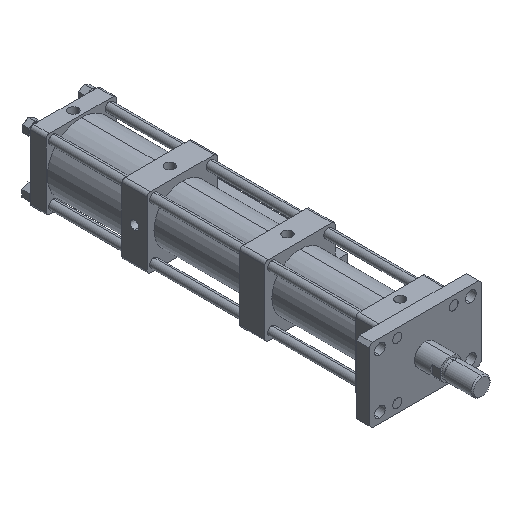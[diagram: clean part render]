
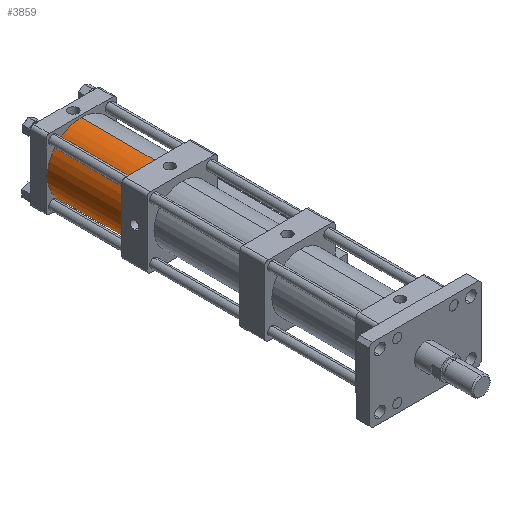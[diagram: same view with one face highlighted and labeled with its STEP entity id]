
A CAD part, isometric view. The second image highlights one B-rep face of the part: STEP entity #3859.
In plain terms, the highlighted cylindrical face has radius 54 mm (diameter 108 mm), a partial arc.
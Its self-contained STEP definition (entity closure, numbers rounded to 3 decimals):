
#172 = DIRECTION ( 'NONE',  ( 0., 1., 0. ) ) ;
#175 = ORIENTED_EDGE ( 'NONE', *, *, #1699, .F. ) ;
#574 = VERTEX_POINT ( 'NONE', #731 ) ;
#731 = CARTESIAN_POINT ( 'NONE',  ( 0., 549.002, 52.362 ) ) ;
#916 = ORIENTED_EDGE ( 'NONE', *, *, #6060, .T. ) ;
#946 = AXIS2_PLACEMENT_3D ( 'NONE', #7564, #3894, #3275 ) ;
#989 = CARTESIAN_POINT ( 'NONE',  ( 0., 428.002, 52.362 ) ) ;
#1024 = AXIS2_PLACEMENT_3D ( 'NONE', #3403, #7699, #4025 ) ;
#1521 = VECTOR ( 'NONE', #1716, 1000. ) ;
#1699 = EDGE_CURVE ( 'NONE', #5766, #574, #3973, .T. ) ;
#1716 = DIRECTION ( 'NONE',  ( 0., -1., 0. ) ) ;
#2551 = EDGE_LOOP ( 'NONE', ( #4134, #175, #916, #3317 ) ) ;
#3111 = VECTOR ( 'NONE', #5247, 1000. ) ;
#3241 = EDGE_CURVE ( 'NONE', #6761, #5503, #6177, .T. ) ;
#3275 = DIRECTION ( 'NONE',  ( 0., 0., -1. ) ) ;
#3277 = EDGE_CURVE ( 'NONE', #574, #5503, #5977, .T. ) ;
#3317 = ORIENTED_EDGE ( 'NONE', *, *, #3241, .T. ) ;
#3369 = CYLINDRICAL_SURFACE ( 'NONE', #946, 54. ) ;
#3403 = CARTESIAN_POINT ( 'NONE',  ( 0., 428.002, -1.638 ) ) ;
#3854 = CARTESIAN_POINT ( 'NONE',  ( 0., 549.002, -1.638 ) ) ;
#3859 = ADVANCED_FACE ( 'NONE', ( #5393 ), #3369, .T. ) ;
#3894 = DIRECTION ( 'NONE',  ( 0., -1., 0. ) ) ;
#3973 = CIRCLE ( 'NONE', #6688, 54. ) ;
#4025 = DIRECTION ( 'NONE',  ( 0., 0., 1. ) ) ;
#4134 = ORIENTED_EDGE ( 'NONE', *, *, #3277, .F. ) ;
#4386 = CARTESIAN_POINT ( 'NONE',  ( 0., 549.002, -55.638 ) ) ;
#4484 = DIRECTION ( 'NONE',  ( 0., 0., 1. ) ) ;
#4966 = LINE ( 'NONE', #7807, #1521 ) ;
#5247 = DIRECTION ( 'NONE',  ( 0., -1., 0. ) ) ;
#5393 = FACE_OUTER_BOUND ( 'NONE', #2551, .T. ) ;
#5503 = VERTEX_POINT ( 'NONE', #989 ) ;
#5766 = VERTEX_POINT ( 'NONE', #4386 ) ;
#5858 = CARTESIAN_POINT ( 'NONE',  ( 0., 549.002, 52.362 ) ) ;
#5977 = LINE ( 'NONE', #5858, #3111 ) ;
#6060 = EDGE_CURVE ( 'NONE', #5766, #6761, #4966, .T. ) ;
#6177 = CIRCLE ( 'NONE', #1024, 54. ) ;
#6688 = AXIS2_PLACEMENT_3D ( 'NONE', #3854, #172, #4484 ) ;
#6761 = VERTEX_POINT ( 'NONE', #7608 ) ;
#7564 = CARTESIAN_POINT ( 'NONE',  ( 0., 549.002, -1.638 ) ) ;
#7608 = CARTESIAN_POINT ( 'NONE',  ( 0., 428.002, -55.638 ) ) ;
#7699 = DIRECTION ( 'NONE',  ( 0., 1., 0. ) ) ;
#7807 = CARTESIAN_POINT ( 'NONE',  ( 0., 549.002, -55.638 ) ) ;
